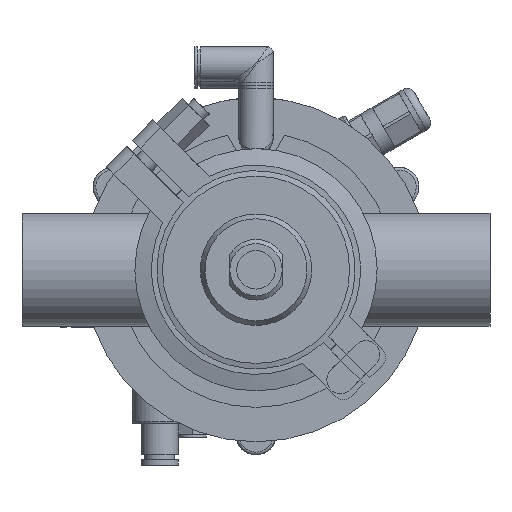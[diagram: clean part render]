
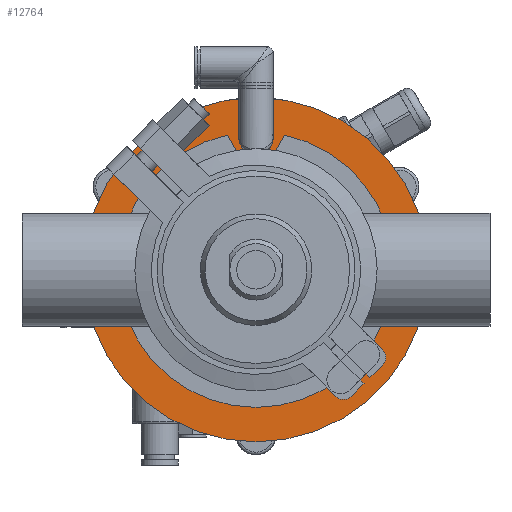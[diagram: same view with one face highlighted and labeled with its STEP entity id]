
A CAD part, front view. The second image highlights one B-rep face of the part: STEP entity #12764.
In plain terms, the highlighted planar face has unit normal (0, -1, 0).
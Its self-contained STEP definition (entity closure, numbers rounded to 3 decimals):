
#1082 = DIRECTION ( 'NONE',  ( 0., 0., -1. ) ) ;
#3444 = CARTESIAN_POINT ( 'NONE',  ( 0., 0., -62.5 ) ) ;
#4814 = CIRCLE ( 'NONE', #34044, 62.5 ) ;
#5388 = CARTESIAN_POINT ( 'NONE',  ( 0., 0., 0. ) ) ;
#10528 = EDGE_LOOP ( 'NONE', ( #55863 ) ) ;
#10865 = CIRCLE ( 'NONE', #62251, 6.25 ) ;
#12764 = ADVANCED_FACE ( 'NONE', ( #43927, #33772 ), #53085, .F. ) ;
#14750 = ORIENTED_EDGE ( 'NONE', *, *, #53357, .F. ) ;
#14894 = VERTEX_POINT ( 'NONE', #48108 ) ;
#18716 = DIRECTION ( 'NONE',  ( 0., -1., 0. ) ) ;
#20944 = DIRECTION ( 'NONE',  ( 0., -1., 0. ) ) ;
#23678 = DIRECTION ( 'NONE',  ( 0., 1., 0. ) ) ;
#33772 = FACE_OUTER_BOUND ( 'NONE', #10528, .T. ) ;
#33885 = DIRECTION ( 'NONE',  ( 0., 0., 1. ) ) ;
#34044 = AXIS2_PLACEMENT_3D ( 'NONE', #54131, #20944, #1082 ) ;
#37801 = EDGE_LOOP ( 'NONE', ( #14750 ) ) ;
#42149 = AXIS2_PLACEMENT_3D ( 'NONE', #5388, #23678, #57127 ) ;
#43927 = FACE_BOUND ( 'NONE', #37801, .T. ) ;
#46781 = VERTEX_POINT ( 'NONE', #3444 ) ;
#48108 = CARTESIAN_POINT ( 'NONE',  ( 0., 0., 54.25 ) ) ;
#53085 = PLANE ( 'NONE',  #42149 ) ;
#53357 = EDGE_CURVE ( 'NONE', #14894, #14894, #10865, .T. ) ;
#54131 = CARTESIAN_POINT ( 'NONE',  ( 0., 0., 0. ) ) ;
#55863 = ORIENTED_EDGE ( 'NONE', *, *, #60001, .T. ) ;
#57127 = DIRECTION ( 'NONE',  ( 0., 0., 1. ) ) ;
#60001 = EDGE_CURVE ( 'NONE', #46781, #46781, #4814, .T. ) ;
#61931 = CARTESIAN_POINT ( 'NONE',  ( 0., 0., 48. ) ) ;
#62251 = AXIS2_PLACEMENT_3D ( 'NONE', #61931, #18716, #33885 ) ;
